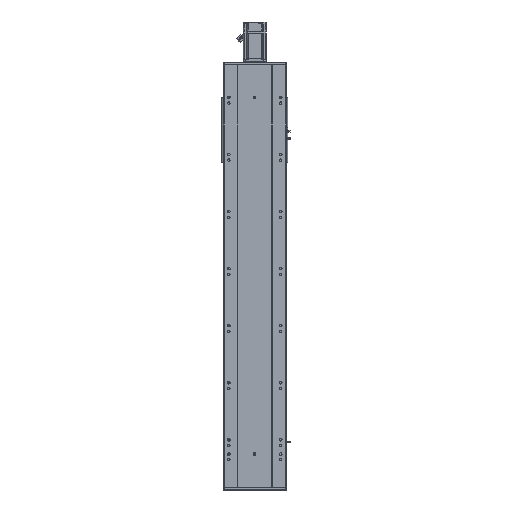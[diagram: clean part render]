
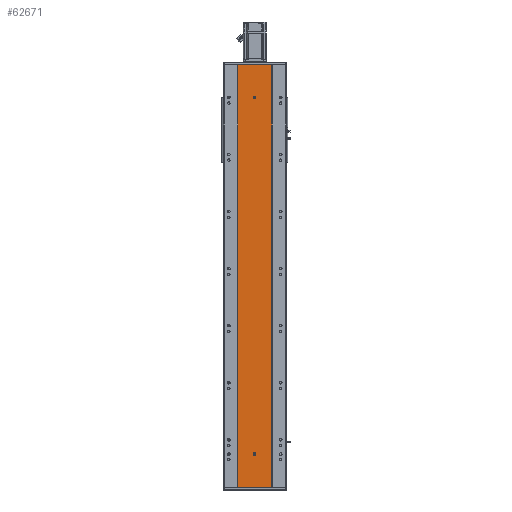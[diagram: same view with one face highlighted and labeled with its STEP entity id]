
A CAD part, front view. The second image highlights one B-rep face of the part: STEP entity #62671.
In plain terms, the highlighted planar face has unit normal (0, -1, 0).
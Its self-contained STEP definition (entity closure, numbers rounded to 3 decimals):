
#257 = VERTEX_POINT ( 'NONE', #52887 ) ;
#2262 = EDGE_CURVE ( 'NONE', #19610, #34398, #38797, .T. ) ;
#3881 = VERTEX_POINT ( 'NONE', #24179 ) ;
#4095 = CIRCLE ( 'NONE', #4284, 4. ) ;
#4284 = AXIS2_PLACEMENT_3D ( 'NONE', #52573, #63576, #6397 ) ;
#4811 = FACE_BOUND ( 'NONE', #33326, .T. ) ;
#5257 = DIRECTION ( 'NONE',  ( 0., 0., 1. ) ) ;
#5740 = CARTESIAN_POINT ( 'NONE',  ( 0., 0., 112.5 ) ) ;
#6397 = DIRECTION ( 'NONE',  ( 0., 0., -1. ) ) ;
#6746 = DIRECTION ( 'NONE',  ( 0., -1., 0. ) ) ;
#7090 = CARTESIAN_POINT ( 'NONE',  ( -60., 0., 1482. ) ) ;
#10782 = EDGE_CURVE ( 'NONE', #34398, #40251, #34116, .T. ) ;
#11431 = DIRECTION ( 'NONE',  ( 0., 0., -1. ) ) ;
#12096 = CARTESIAN_POINT ( 'NONE',  ( 60., 0., 0. ) ) ;
#12351 = VECTOR ( 'NONE', #11431, 1000. ) ;
#12922 = EDGE_CURVE ( 'NONE', #3881, #48883, #44662, .T. ) ;
#13318 = LINE ( 'NONE', #44771, #73417 ) ;
#14700 = ORIENTED_EDGE ( 'NONE', *, *, #12922, .T. ) ;
#14762 = CARTESIAN_POINT ( 'NONE',  ( 60., 0., 1482. ) ) ;
#16359 = ORIENTED_EDGE ( 'NONE', *, *, #30185, .F. ) ;
#17965 = CARTESIAN_POINT ( 'NONE',  ( 0., 0., 1368. ) ) ;
#18204 = CARTESIAN_POINT ( 'NONE',  ( 0., 0., 1368. ) ) ;
#18395 = ORIENTED_EDGE ( 'NONE', *, *, #2262, .F. ) ;
#19610 = VERTEX_POINT ( 'NONE', #5740 ) ;
#19836 = CIRCLE ( 'NONE', #54440, 4. ) ;
#21725 = ORIENTED_EDGE ( 'NONE', *, *, #43398, .F. ) ;
#22299 = CARTESIAN_POINT ( 'NONE',  ( -60., 0., 1482. ) ) ;
#22826 = EDGE_LOOP ( 'NONE', ( #14700, #47279, #39262, #34232 ) ) ;
#23590 = EDGE_CURVE ( 'NONE', #23761, #48883, #26055, .T. ) ;
#23761 = VERTEX_POINT ( 'NONE', #14762 ) ;
#24179 = CARTESIAN_POINT ( 'NONE',  ( -60., 0., 0. ) ) ;
#24458 = AXIS2_PLACEMENT_3D ( 'NONE', #18204, #58165, #28749 ) ;
#24607 = CARTESIAN_POINT ( 'NONE',  ( 4., 0., 116.5 ) ) ;
#24813 = VERTEX_POINT ( 'NONE', #62915 ) ;
#25328 = EDGE_CURVE ( 'NONE', #44692, #23761, #13318, .T. ) ;
#25940 = DIRECTION ( 'NONE',  ( 1., 0., 0. ) ) ;
#26055 = LINE ( 'NONE', #71515, #71840 ) ;
#26111 = DIRECTION ( 'NONE',  ( 0., 0., 1. ) ) ;
#27412 = DIRECTION ( 'NONE',  ( 0., -1., 0. ) ) ;
#27921 = DIRECTION ( 'NONE',  ( 1., 0., 0. ) ) ;
#28749 = DIRECTION ( 'NONE',  ( 0., 0., -1. ) ) ;
#30185 = EDGE_CURVE ( 'NONE', #63212, #257, #51400, .T. ) ;
#31167 = VECTOR ( 'NONE', #25940, 1000. ) ;
#31440 = ORIENTED_EDGE ( 'NONE', *, *, #10782, .F. ) ;
#33326 = EDGE_LOOP ( 'NONE', ( #31440, #18395, #69278, #69383, #67572 ) ) ;
#33664 = CARTESIAN_POINT ( 'NONE',  ( 0., 0., 116.5 ) ) ;
#34116 = LINE ( 'NONE', #24607, #42180 ) ;
#34232 = ORIENTED_EDGE ( 'NONE', *, *, #64267, .T. ) ;
#34398 = VERTEX_POINT ( 'NONE', #63848 ) ;
#35002 = VERTEX_POINT ( 'NONE', #47139 ) ;
#38797 = CIRCLE ( 'NONE', #41831, 4. ) ;
#39262 = ORIENTED_EDGE ( 'NONE', *, *, #25328, .F. ) ;
#39590 = DIRECTION ( 'NONE',  ( 0., 1., 0. ) ) ;
#39635 = CIRCLE ( 'NONE', #62433, 4. ) ;
#40251 = VERTEX_POINT ( 'NONE', #71830 ) ;
#41831 = AXIS2_PLACEMENT_3D ( 'NONE', #72653, #60428, #66904 ) ;
#42180 = VECTOR ( 'NONE', #26111, 1000. ) ;
#42267 = AXIS2_PLACEMENT_3D ( 'NONE', #22299, #39590, #5257 ) ;
#43398 = EDGE_CURVE ( 'NONE', #257, #63212, #19836, .T. ) ;
#44662 = LINE ( 'NONE', #48784, #31167 ) ;
#44692 = VERTEX_POINT ( 'NONE', #51489 ) ;
#44771 = CARTESIAN_POINT ( 'NONE',  ( -60., 0., 1482. ) ) ;
#45397 = PLANE ( 'NONE',  #42267 ) ;
#45994 = VECTOR ( 'NONE', #52016, 1000. ) ;
#47139 = CARTESIAN_POINT ( 'NONE',  ( -4., 0., 119.5 ) ) ;
#47279 = ORIENTED_EDGE ( 'NONE', *, *, #23590, .F. ) ;
#47680 = CARTESIAN_POINT ( 'NONE',  ( 0., 0., 1372. ) ) ;
#48197 = DIRECTION ( 'NONE',  ( 0., 0., -1. ) ) ;
#48784 = CARTESIAN_POINT ( 'NONE',  ( -60., 0., 0. ) ) ;
#48883 = VERTEX_POINT ( 'NONE', #12096 ) ;
#50118 = EDGE_CURVE ( 'NONE', #24813, #19610, #39635, .T. ) ;
#50622 = FACE_OUTER_BOUND ( 'NONE', #22826, .T. ) ;
#51400 = CIRCLE ( 'NONE', #24458, 4. ) ;
#51489 = CARTESIAN_POINT ( 'NONE',  ( -60., 0., 1482. ) ) ;
#51918 = DIRECTION ( 'NONE',  ( 0., 0., -1. ) ) ;
#52016 = DIRECTION ( 'NONE',  ( 0., 0., -1. ) ) ;
#52573 = CARTESIAN_POINT ( 'NONE',  ( 0., 0., 119.5 ) ) ;
#52887 = CARTESIAN_POINT ( 'NONE',  ( 0., 0., 1364. ) ) ;
#54440 = AXIS2_PLACEMENT_3D ( 'NONE', #17965, #6746, #51918 ) ;
#56857 = CARTESIAN_POINT ( 'NONE',  ( -4., 0., 116.5 ) ) ;
#58165 = DIRECTION ( 'NONE',  ( 0., -1., 0. ) ) ;
#58185 = LINE ( 'NONE', #56857, #12351 ) ;
#60428 = DIRECTION ( 'NONE',  ( 0., -1., 0. ) ) ;
#61729 = EDGE_CURVE ( 'NONE', #40251, #35002, #4095, .T. ) ;
#62433 = AXIS2_PLACEMENT_3D ( 'NONE', #33664, #27412, #73794 ) ;
#62671 = ADVANCED_FACE ( 'NONE', ( #66784, #4811, #50622 ), #45397, .F. ) ;
#62915 = CARTESIAN_POINT ( 'NONE',  ( -4., 0., 116.5 ) ) ;
#63212 = VERTEX_POINT ( 'NONE', #47680 ) ;
#63576 = DIRECTION ( 'NONE',  ( 0., -1., 0. ) ) ;
#63848 = CARTESIAN_POINT ( 'NONE',  ( 4., 0., 116.5 ) ) ;
#63873 = EDGE_LOOP ( 'NONE', ( #21725, #16359 ) ) ;
#64267 = EDGE_CURVE ( 'NONE', #44692, #3881, #72056, .T. ) ;
#66784 = FACE_BOUND ( 'NONE', #63873, .T. ) ;
#66904 = DIRECTION ( 'NONE',  ( 0., 0., -1. ) ) ;
#67572 = ORIENTED_EDGE ( 'NONE', *, *, #61729, .F. ) ;
#69278 = ORIENTED_EDGE ( 'NONE', *, *, #50118, .F. ) ;
#69383 = ORIENTED_EDGE ( 'NONE', *, *, #71096, .F. ) ;
#71096 = EDGE_CURVE ( 'NONE', #35002, #24813, #58185, .T. ) ;
#71515 = CARTESIAN_POINT ( 'NONE',  ( 60., 0., 1482. ) ) ;
#71830 = CARTESIAN_POINT ( 'NONE',  ( 4., 0., 119.5 ) ) ;
#71840 = VECTOR ( 'NONE', #48197, 1000. ) ;
#72056 = LINE ( 'NONE', #7090, #45994 ) ;
#72653 = CARTESIAN_POINT ( 'NONE',  ( 0., 0., 116.5 ) ) ;
#73417 = VECTOR ( 'NONE', #27921, 1000. ) ;
#73794 = DIRECTION ( 'NONE',  ( 0., 0., -1. ) ) ;
